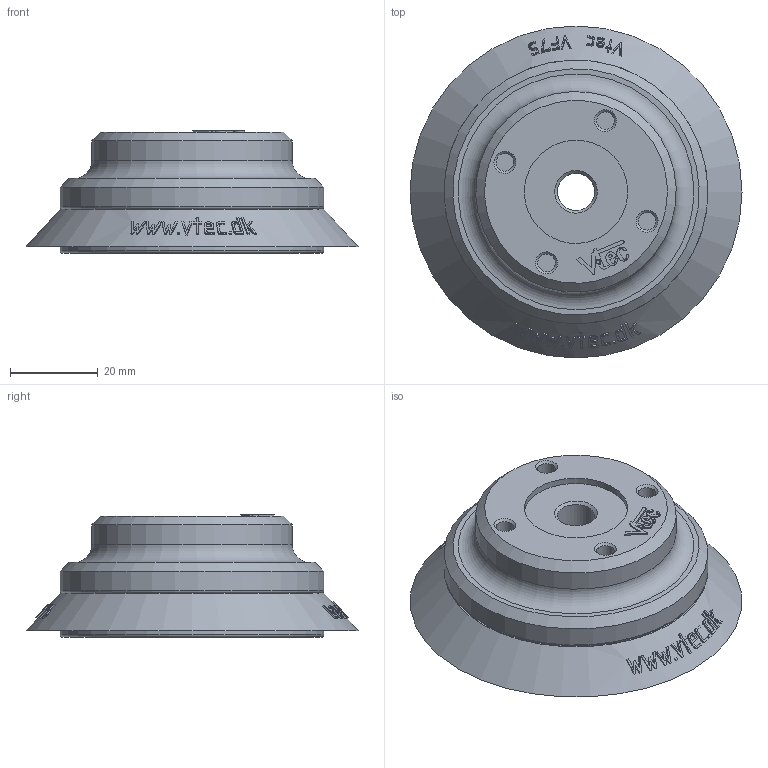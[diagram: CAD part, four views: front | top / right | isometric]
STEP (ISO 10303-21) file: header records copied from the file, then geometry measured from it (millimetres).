
FILE_DESCRIPTION( ( 'STEP AP203' ), '1' );
FILE_NAME( 'C:/Documents and Settings/Owner/官帕 拳搁/3D/Vacuum Pad/VF series/VF75-18F.stp', '2006-04-25T04:57:27', ( ' ' ), ( ' ' ), 'XStep 1.0', ' ', ' ' );
FILE_SCHEMA( ( 'CONFIG_CONTROL_DESIGN) ( )' ) );
Length unit declared in the file: metre
Products named in the file (3): Assem1; 1; 2
Bounding box: 75.5 x 75.5 x 27.8 mm (x, y, z)
Volume: 98192.8 mm3; surface area: 43606.8 mm2
Topology: 4 solids, 4 shells, 680 faces, 1742 edges, 1156 vertices
Faces by surface type: bspline 324, plane 142, cylinder 138, cone 64, torus 8, extrusion 4
Full cylindrical faces by diameter (mm): 0.791 x2, 4 x16, 6 x8, 8.5 x2, 10.5 x2, 15 x2, 23.5 x2, 45.6 x2, 55 x4, 60 x2
Entity records: 15964 total; most frequent: CARTESIAN_POINT 8771, ORIENTED_EDGE 1650, DIRECTION 1001, EDGE_CURVE 825, VERTEX_POINT 567, EDGE_LOOP 430, FACE_OUTER_BOUND 365, B_SPLINE_CURVE_WITH_KNOTS 363
